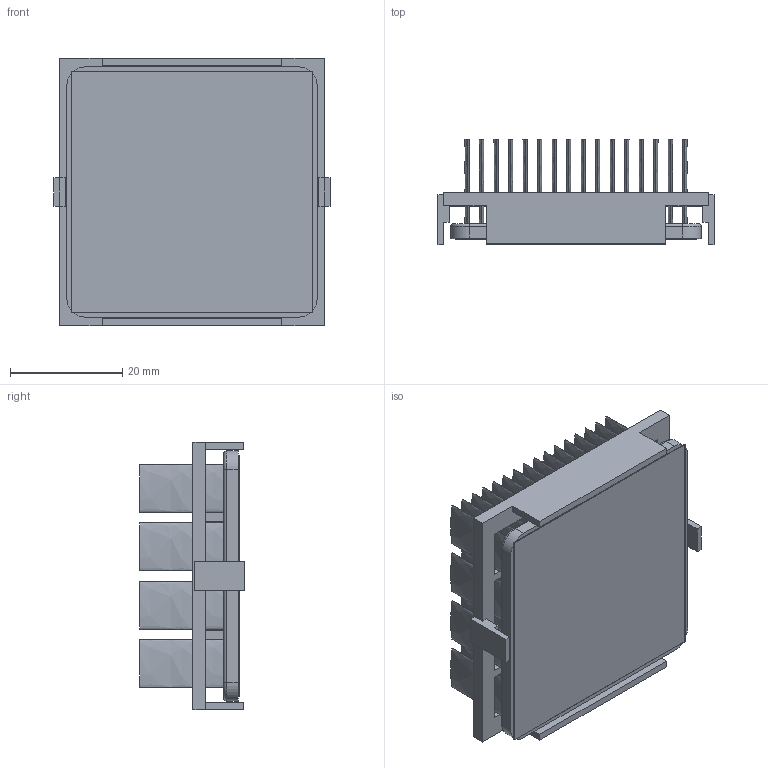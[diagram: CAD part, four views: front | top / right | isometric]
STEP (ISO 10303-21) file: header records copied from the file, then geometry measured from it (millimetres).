
FILE_DESCRIPTION (( 'STEP AP214' ), '1' );
FILE_NAME ('INM45001-18W-2.6O.STEP', '2023-02-28T00:40:44', ( '' ), ( '' ), 'SwSTEP 2.0', 'SolidWorks 2020', '' );
FILE_SCHEMA (( 'AUTOMOTIVE_DESIGN' ));
Length unit declared in the file: inch
Products named in the file (1): INM45001-18W-2.6O
Bounding box: 49.2 x 18.7 x 47.7 mm (x, y, z)
Volume: 12737.1 mm3; surface area: 28014.9 mm2
Topology: 3 solids, 3 shells, 274 faces, 604 edges, 400 vertices
Faces by surface type: plane 134, bspline 128, cylinder 8, torus 4
Entity records: 11396 total; most frequent: CARTESIAN_POINT 2943, ORIENTED_EDGE 1208, DIRECTION 662, EDGE_CURVE 604, VERTEX_POINT 400, EDGE_LOOP 340, LINE 328, VECTOR 328
